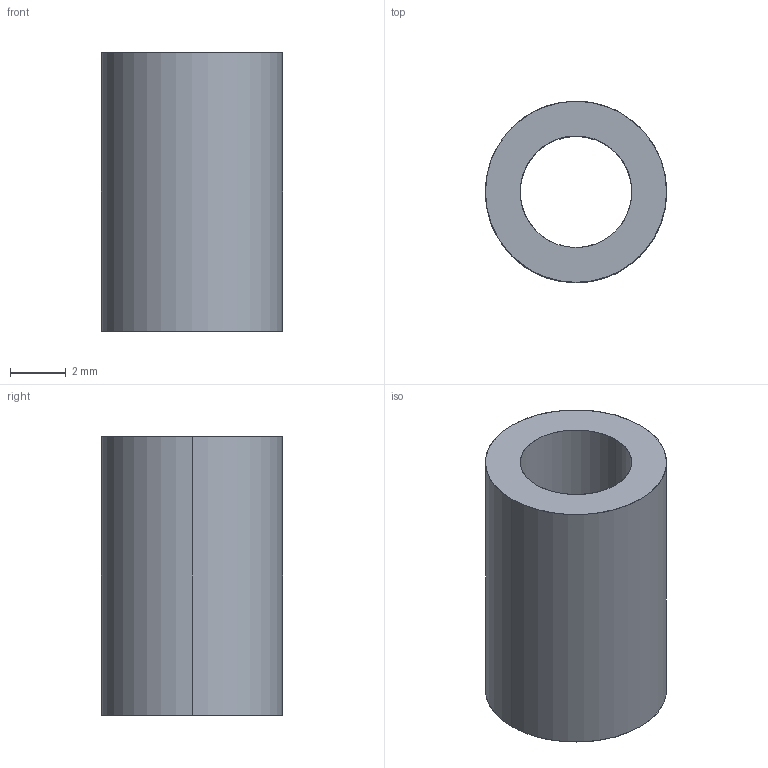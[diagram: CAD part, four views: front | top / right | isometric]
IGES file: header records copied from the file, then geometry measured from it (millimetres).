
Global section: file name: E:\UnigraphicsGraphicData\MISUMI_PRESS-PARTS\IGES\3d_sb6.5-10_00128_r00.igs; native system: NX V5.0; preprocessor: UGS NX IGES V5.0; author: MISUMI; date: 20110105.162424; units: millimetre
Bounding box: 6.5 x 6.5 x 10 mm (x, y, z)
Surface area: 371.2 mm2 (no closed solid volume)
Topology: 0 solids, 0 shells, 6 faces, 48 edges, 48 vertices
Faces by surface type: bspline 6
